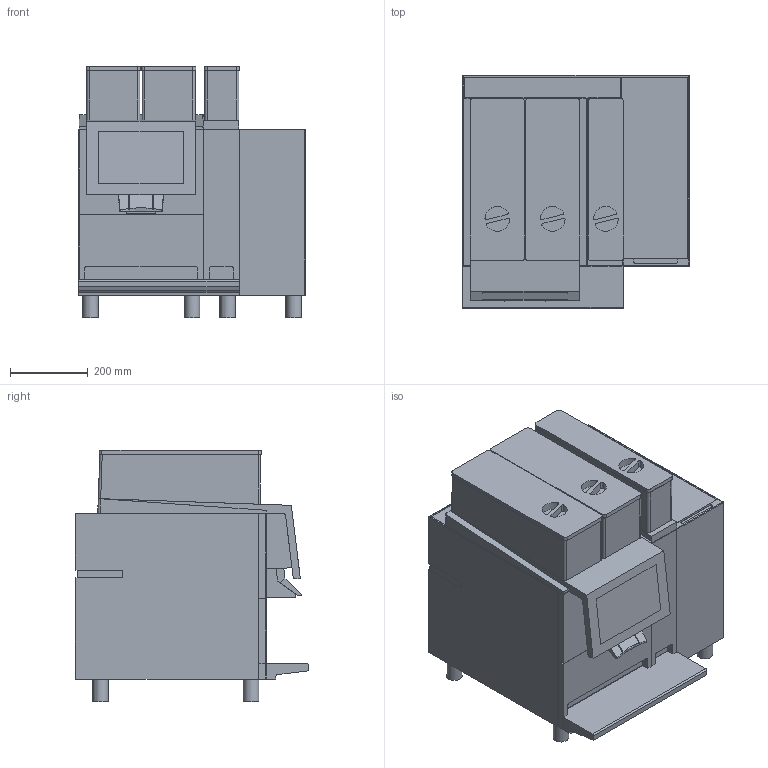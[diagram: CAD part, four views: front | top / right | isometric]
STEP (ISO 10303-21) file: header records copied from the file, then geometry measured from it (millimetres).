
FILE_DESCRIPTION(/* description */ ('Unknown'),/* implementation_level */ '2;1');
FILE_NAME(/* name */ 'HM_BW4-CTM-P-F',/* time_stamp */ '2026-08-14T11:17:34+02:00',/* author */ ('Unknown'),/* organization */ ('Unknown'),/* preprocessor_version */ 'ST-DEVELOPER v20',/* originating_system */ 'Solid Edge',/* authorisation */ 'Unknown');
FILE_SCHEMA (('AUTOMOTIVE_DESIGN {1 0 10303 214 3 1 1}'));
Length unit declared in the file: millimetre
Products named in the file (1): HM_BW4-CTM-P-F
Bounding box: 583.3 x 599.39 x 645.65 mm (x, y, z)
Volume: 150475711.1 mm3; surface area: 2403420.6 mm2
Topology: 1 solids, 1 shells, 330 faces, 899 edges, 579 vertices
Faces by surface type: plane 234, cylinder 92, sphere 4
Full cylindrical faces by diameter (mm): 40 x8
Entity records: 12632 total; most frequent: CARTESIAN_POINT 1791, ORIENTED_EDGE 1768, DIRECTION 1747, EDGE_CURVE 884, LINE 683, VECTOR 683, VERTEX_POINT 576, AXIS2_PLACEMENT_3D 532
